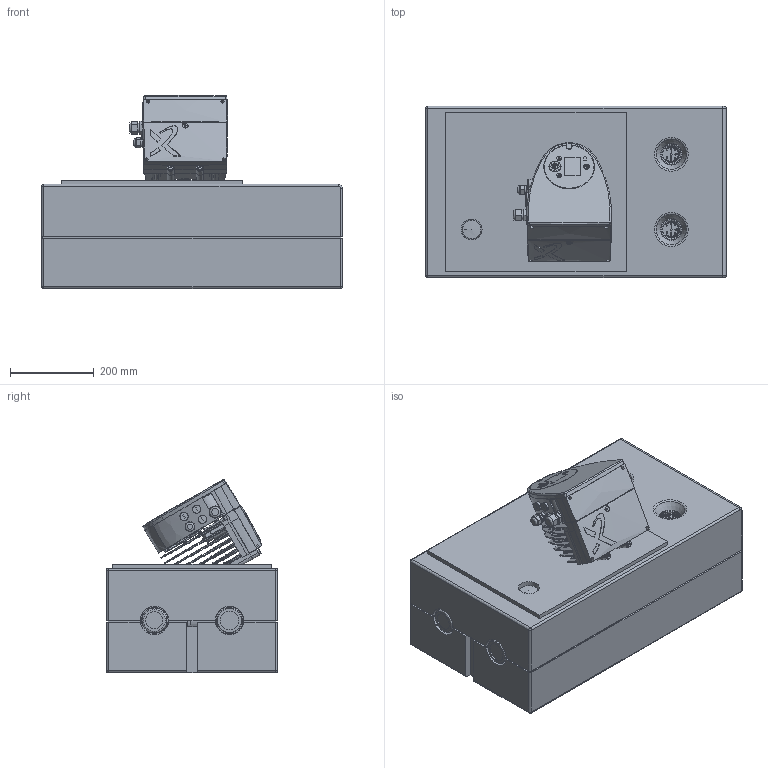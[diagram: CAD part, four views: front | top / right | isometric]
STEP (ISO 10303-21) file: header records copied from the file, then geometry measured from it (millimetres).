
FILE_DESCRIPTION((''),'2;1');
FILE_NAME('C:\Users\Moreuih\Desktop\HKM DN50 10026874 (Grundfos)\10026874 - HKMDN50 (Magna 3 50-100F).stp','2016-09-01T15:52:43',('Moreuih'),(''),'Autodesk Inventor 2013','Autodesk Inventor 2013','');
FILE_SCHEMA(('AUTOMOTIVE_DESIGN { 1 0 10303 214 1 1 1 1 }'));
Length unit declared in the file: millimetre
Products named in the file (6): 10026874 - HKM-DN50 (Magna3 50-100F); insulation back; Pumpe MAGNA3 50-100F; Stellmotor ESBE; insulation Front; hydr HKM DN50
Assembly tree (5 placements, depth 2):
  10026874 - HKM-DN50 (Magna3 50-100F)
    insulation back
    Pumpe MAGNA3 50-100F
    Stellmotor ESBE
    insulation Front
    hydr HKM DN50
Bounding box: 720 x 410 x 462.67 mm (x, y, z)
Volume: 42083187.9 mm3; surface area: 3501149.4 mm2
Topology: 10 solids, 15 shells, 5973 faces, 15686 edges, 10199 vertices
Faces by surface type: plane 3159, bspline 1300, cylinder 928, cone 395, torus 147, sphere 40, revolution 4
Full cylindrical faces by diameter (mm): 2 x2, 2.601 x2, 3 x2, 3.45 x2, 4 x3, 4.001 x2, 4.6 x1, 5 x5, 5.1 x2, 6.2 x2, 8 x11, 8.2 x2, 9 x2, 10 x2, 11 x2, 11.445 x4, 11.7 x2, 12 x21, 12.05 x1, 13 x17, 13.16 x2, 13.5 x2, 13.75 x1, 13.8 x4, 14 x9, 14.05 x1, 14.85 x1, 15.25 x1, 16.63 x8, 17 x6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
Entity records: 249444 total; most frequent: CARTESIAN_POINT 108621, ORIENTED_EDGE 30296, DIRECTION 24334, EDGE_CURVE 15148, VERTEX_POINT 10077, AXIS2_PLACEMENT_3D 8123, VECTOR 8084, LINE 8084
